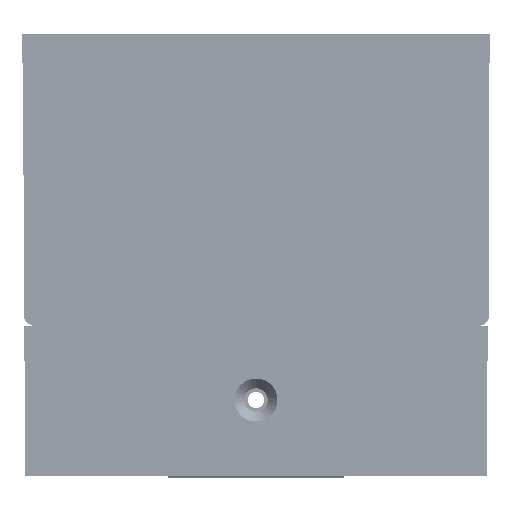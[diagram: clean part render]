
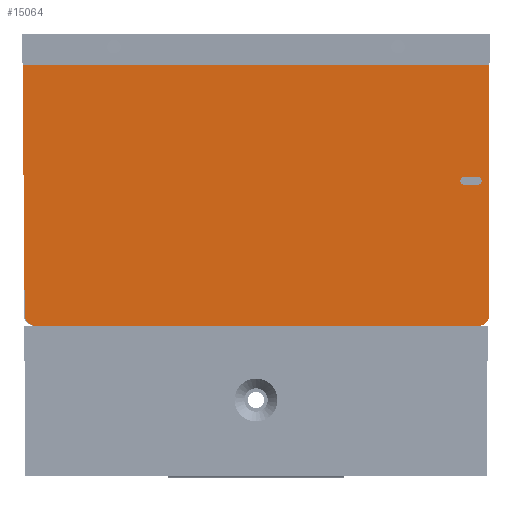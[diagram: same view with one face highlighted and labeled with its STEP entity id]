
A CAD part, left-side view. The second image highlights one B-rep face of the part: STEP entity #15064.
In plain terms, the highlighted planar face has unit normal (-1, 0, -0.009).
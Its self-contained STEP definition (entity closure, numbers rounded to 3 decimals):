
#4612=DIRECTION('',(0.,1.,0.));
#4613=VECTOR('',#4612,3.5);
#4614=CARTESIAN_POINT('',(-59.75,-57.,40.8));
#4615=LINE('',#4614,#4613);
#4616=CARTESIAN_POINT('',(-59.75,-53.5,40.8));
#4617=CARTESIAN_POINT('',(-59.75,-53.264,40.8));
#4618=CARTESIAN_POINT('',(-59.748,-52.849,
40.651));
#4619=CARTESIAN_POINT('',(-59.744,-52.543,
40.169));
#4620=CARTESIAN_POINT('',(-59.741,-52.479,39.8));
#4621=CARTESIAN_POINT('',(-59.738,-52.543,
39.431));
#4622=CARTESIAN_POINT('',(-59.733,-52.849,
38.949));
#4623=CARTESIAN_POINT('',(-59.732,-53.264,38.8));
#4624=CARTESIAN_POINT('',(-59.732,-53.5,38.8));
#4626=DIRECTION('',(0.,-1.,0.));
#4627=VECTOR('',#4626,3.5);
#4628=CARTESIAN_POINT('',(-59.732,-53.5,38.8));
#4629=LINE('',#4628,#4627);
#4630=CARTESIAN_POINT('',(-59.732,-57.,38.8));
#4631=CARTESIAN_POINT('',(-59.732,-57.236,38.8));
#4632=CARTESIAN_POINT('',(-59.733,-57.651,
38.949));
#4633=CARTESIAN_POINT('',(-59.738,-57.957,
39.431));
#4634=CARTESIAN_POINT('',(-59.741,-58.021,39.8));
#4635=CARTESIAN_POINT('',(-59.744,-57.957,
40.169));
#4636=CARTESIAN_POINT('',(-59.748,-57.651,
40.651));
#4637=CARTESIAN_POINT('',(-59.75,-57.236,40.8));
#4638=CARTESIAN_POINT('',(-59.75,-57.,40.8));
#4640=CARTESIAN_POINT('',(-59.415,-57.,2.5));
#4641=CARTESIAN_POINT('',(-59.415,-57.5,2.5));
#4642=CARTESIAN_POINT('',(-59.417,-58.283,
2.717));
#4643=CARTESIAN_POINT('',(-59.423,-59.166,
3.335));
#4644=CARTESIAN_POINT('',(-59.43,-59.783,
4.217));
#4645=CARTESIAN_POINT('',(-59.437,-60.,5.));
#4646=CARTESIAN_POINT('',(-59.441,-60.,5.5));
#4648=DIRECTION('',(0.,1.,0.));
#4649=VECTOR('',#4648,113.441);
#4650=CARTESIAN_POINT('',(-59.415,-57.,2.5));
#4651=LINE('',#4650,#4649);
#4652=CARTESIAN_POINT('',(-59.441,59.441,5.474));
#4653=CARTESIAN_POINT('',(-59.437,59.437,4.978));
#4654=CARTESIAN_POINT('',(-59.43,59.216,4.201));
#4655=CARTESIAN_POINT('',(-59.423,58.597,3.326));
#4656=CARTESIAN_POINT('',(-59.417,57.716,2.714));
#4657=CARTESIAN_POINT('',(-59.415,56.937,2.5));
#4658=CARTESIAN_POINT('',(-59.415,56.441,2.5));
#4660=DIRECTION('',(0.,-1.,0.));
#4661=VECTOR('',#4660,120.);
#4662=CARTESIAN_POINT('',(-60.,60.,69.5));
#4663=LINE('',#4662,#4661);
#4664=DIRECTION('',(0.009,0.,-1.));
#4665=VECTOR('',#4664,64.002);
#4666=CARTESIAN_POINT('',(-60.,-60.,69.5));
#4667=LINE('',#4666,#4665);
#4738=DIRECTION('',(0.009,-0.009,-1.));
#4739=VECTOR('',#4738,64.031);
#4740=CARTESIAN_POINT('',(-60.,60.,69.5));
#4741=LINE('',#4740,#4739);
#7745=CARTESIAN_POINT('',(-60.,60.,69.5));
#7746=CARTESIAN_POINT('',(-60.,-60.,69.5));
#7747=VERTEX_POINT('',#7745);
#7748=VERTEX_POINT('',#7746);
#7753=CARTESIAN_POINT('',(-59.75,-57.,40.8));
#7754=CARTESIAN_POINT('',(-59.75,-53.5,40.8));
#7755=VERTEX_POINT('',#7753);
#7756=VERTEX_POINT('',#7754);
#7757=VERTEX_POINT('',#4624);
#7758=CARTESIAN_POINT('',(-59.732,-57.,38.8));
#7759=VERTEX_POINT('',#7758);
#8637=VERTEX_POINT('',#4640);
#8638=VERTEX_POINT('',#4646);
#8654=CARTESIAN_POINT('',(-59.441,59.441,5.474));
#8655=VERTEX_POINT('',#8654);
#8656=VERTEX_POINT('',#4658);
#15037=CARTESIAN_POINT('',(-60.,63.3,69.5));
#15038=DIRECTION('',(-1.,0.,-0.009));
#15039=DIRECTION('',(0.,-1.,0.));
#15040=AXIS2_PLACEMENT_3D('',#15037,#15038,#15039);
#15041=PLANE('',#15040);
#15043=ORIENTED_EDGE('',*,*,#15042,.F.);
#15045=ORIENTED_EDGE('',*,*,#15044,.T.);
#15047=ORIENTED_EDGE('',*,*,#15046,.F.);
#15049=ORIENTED_EDGE('',*,*,#15048,.F.);
#15050=ORIENTED_EDGE('',*,*,#14820,.T.);
#15051=ORIENTED_EDGE('',*,*,#9509,.T.);
#15052=EDGE_LOOP('',(#15043,#15045,#15047,#15049,#15050,#15051));
#15053=FACE_OUTER_BOUND('',#15052,.F.);
#15055=ORIENTED_EDGE('',*,*,#15054,.T.);
#15057=ORIENTED_EDGE('',*,*,#15056,.T.);
#15059=ORIENTED_EDGE('',*,*,#15058,.T.);
#15061=ORIENTED_EDGE('',*,*,#15060,.T.);
#15062=EDGE_LOOP('',(#15055,#15057,#15059,#15061));
#15063=FACE_BOUND('',#15062,.F.);
#15064=ADVANCED_FACE('',(#15053,#15063),#15041,.T.);
#4625=B_SPLINE_CURVE_WITH_KNOTS('',3,(#4616,#4617,#4618,#4619,#4620,#4621,#4622,
#4623,#4624),.UNSPECIFIED.,.F.,.F.,(4,1,1,1,1,1,4),(0.,0.25,0.375,0.5,
0.625,0.75,1.),.UNSPECIFIED.);
#4639=B_SPLINE_CURVE_WITH_KNOTS('',3,(#4630,#4631,#4632,#4633,#4634,#4635,#4636,
#4637,#4638),.UNSPECIFIED.,.F.,.F.,(4,1,1,1,1,1,4),(0.,0.25,0.375,0.5,
0.625,0.75,1.),.UNSPECIFIED.);
#4647=B_SPLINE_CURVE_WITH_KNOTS('',3,(#4640,#4641,#4642,#4643,#4644,#4645,
#4646),.UNSPECIFIED.,.F.,.F.,(4,1,1,1,4),(0.,0.25,0.5,0.75,1.),
.UNSPECIFIED.);
#4659=B_SPLINE_CURVE_WITH_KNOTS('',3,(#4652,#4653,#4654,#4655,#4656,#4657,
#4658),.UNSPECIFIED.,.F.,.F.,(4,1,1,1,4),(0.,0.25,0.5,0.75,1.),
.UNSPECIFIED.);
#9509=EDGE_CURVE('',#7748,#8638,#4667,.T.);
#14820=EDGE_CURVE('',#7747,#7748,#4663,.T.);
#15042=EDGE_CURVE('',#8637,#8638,#4647,.T.);
#15044=EDGE_CURVE('',#8637,#8656,#4651,.T.);
#15046=EDGE_CURVE('',#8655,#8656,#4659,.T.);
#15048=EDGE_CURVE('',#7747,#8655,#4741,.T.);
#15054=EDGE_CURVE('',#7755,#7756,#4615,.T.);
#15056=EDGE_CURVE('',#7756,#7757,#4625,.T.);
#15058=EDGE_CURVE('',#7757,#7759,#4629,.T.);
#15060=EDGE_CURVE('',#7759,#7755,#4639,.T.);
